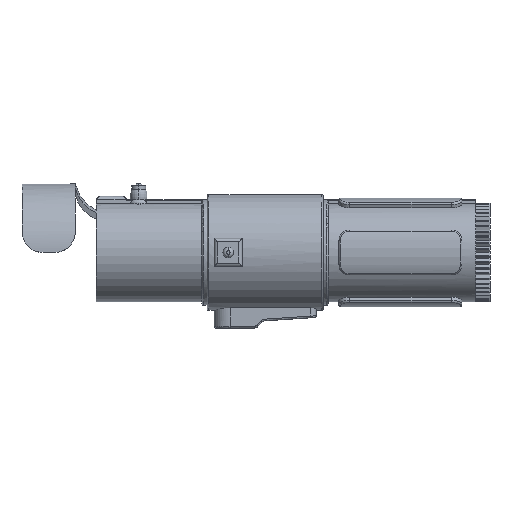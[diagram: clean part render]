
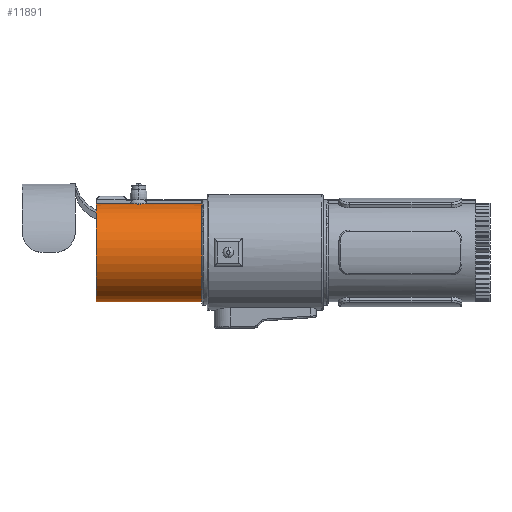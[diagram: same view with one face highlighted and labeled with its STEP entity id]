
A CAD part, left-side view. The second image highlights one B-rep face of the part: STEP entity #11891.
In plain terms, the highlighted cylindrical face has radius 22.225 mm (diameter 44.45 mm), a partial arc.
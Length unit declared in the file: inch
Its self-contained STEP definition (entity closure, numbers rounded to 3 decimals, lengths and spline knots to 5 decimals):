
#107 = VERTEX_POINT ( 'NONE', #178 ) ;
#163 = CYLINDRICAL_SURFACE ( 'NONE', #981, 0.875 ) ;
#178 = CARTESIAN_POINT ( 'NONE',  ( -0.1875, 6.25, 0.85467 ) ) ;
#245 = EDGE_CURVE ( 'NONE', #4231, #6913, #2711, .T. ) ;
#418 = CARTESIAN_POINT ( 'NONE',  ( -0.14351, 6.12862, 0.86319 ) ) ;
#435 = CARTESIAN_POINT ( 'NONE',  ( -0.125, -2.26946, 0.86603 ) ) ;
#752 = AXIS2_PLACEMENT_3D ( 'NONE', #15263, #8434, #9824 ) ;
#981 = AXIS2_PLACEMENT_3D ( 'NONE', #15972, #14753, #5124 ) ;
#1122 = CARTESIAN_POINT ( 'NONE',  ( -0.18061, 6.30204, 0.85616 ) ) ;
#1353 = EDGE_CURVE ( 'NONE', #9234, #7397, #16193, .T. ) ;
#1759 = CARTESIAN_POINT ( 'NONE',  ( -0.1861, 6.22359, 0.85499 ) ) ;
#1802 = VECTOR ( 'NONE', #7156, 39.37008 ) ;
#2711 = LINE ( 'NONE', #4590, #9384 ) ;
#2897 = ORIENTED_EDGE ( 'NONE', *, *, #12521, .T. ) ;
#3138 = CARTESIAN_POINT ( 'NONE',  ( -0.1875, 6.2367, 0.85467 ) ) ;
#3564 = ORIENTED_EDGE ( 'NONE', *, *, #245, .T. ) ;
#4231 = VERTEX_POINT ( 'NONE', #8734 ) ;
#4454 = FACE_OUTER_BOUND ( 'NONE', #4888, .T. ) ;
#4590 = CARTESIAN_POINT ( 'NONE',  ( -0.125, 6.46875, 0.86603 ) ) ;
#4721 = EDGE_CURVE ( 'NONE', #9234, #6913, #11326, .T. ) ;
#4888 = EDGE_LOOP ( 'NONE', ( #12121, #9268, #9356, #11412, #14975, #2897, #3564 ) ) ;
#5124 = DIRECTION ( 'NONE',  ( 0., 0., -1. ) ) ;
#5157 = CARTESIAN_POINT ( 'NONE',  ( -0.1861, 6.27638, 0.85499 ) ) ;
#5321 = VERTEX_POINT ( 'NONE', #5962 ) ;
#5405 = EDGE_CURVE ( 'NONE', #6033, #107, #11547, .T. ) ;
#5861 = VECTOR ( 'NONE', #13161, 39.37008 ) ;
#5962 = CARTESIAN_POINT ( 'NONE',  ( -0.125, 5.125, 0.86603 ) ) ;
#6033 = VERTEX_POINT ( 'NONE', #6414 ) ;
#6077 = CARTESIAN_POINT ( 'NONE',  ( -0.17136, 6.17306, 0.85807 ) ) ;
#6414 = CARTESIAN_POINT ( 'NONE',  ( -0.125, 6.11025, 0.86603 ) ) ;
#6491 = CARTESIAN_POINT ( 'NONE',  ( -0.1875, 6.25, 0.85467 ) ) ;
#6670 = DIRECTION ( 'NONE',  ( 0., 1., 0. ) ) ;
#6709 = CARTESIAN_POINT ( 'NONE',  ( -0.125, 7., 0.86603 ) ) ;
#6913 = VERTEX_POINT ( 'NONE', #6709 ) ;
#7092 = CARTESIAN_POINT ( 'NONE',  ( 0., 7., -0.875 ) ) ;
#7156 = DIRECTION ( 'NONE',  ( 0., -1., 0. ) ) ;
#7220 = CARTESIAN_POINT ( 'NONE',  ( -0.125, 6.11025, 0.86603 ) ) ;
#7397 = VERTEX_POINT ( 'NONE', #10167 ) ;
#7406 = CARTESIAN_POINT ( 'NONE',  ( -0.1588, 6.1501, 0.86048 ) ) ;
#7866 = CARTESIAN_POINT ( 'NONE',  ( -0.1433, 6.3711, 0.8632 ) ) ;
#7930 = CARTESIAN_POINT ( 'NONE',  ( -0.17645, 6.31476, 0.85704 ) ) ;
#8434 = DIRECTION ( 'NONE',  ( 0., 1., 0. ) ) ;
#8594 = CARTESIAN_POINT ( 'NONE',  ( -0.18194, 6.2042, 0.85588 ) ) ;
#8734 = CARTESIAN_POINT ( 'NONE',  ( -0.125, 6.38975, 0.86603 ) ) ;
#8942 = EDGE_CURVE ( 'NONE', #5321, #6033, #16182, .T. ) ;
#9168 = CARTESIAN_POINT ( 'NONE',  ( -0.1345, 6.38081, 0.86461 ) ) ;
#9234 = VERTEX_POINT ( 'NONE', #16447 ) ;
#9268 = ORIENTED_EDGE ( 'NONE', *, *, #1353, .T. ) ;
#9276 = CARTESIAN_POINT ( 'NONE',  ( -0.1875, 6.26331, 0.85467 ) ) ;
#9356 = ORIENTED_EDGE ( 'NONE', *, *, #9949, .T. ) ;
#9384 = VECTOR ( 'NONE', #15754, 39.37008 ) ;
#9824 = DIRECTION ( 'NONE',  ( 0., 0., 1. ) ) ;
#9949 = EDGE_CURVE ( 'NONE', #7397, #5321, #16142, .T. ) ;
#10167 = CARTESIAN_POINT ( 'NONE',  ( 0., 5.125, -0.875 ) ) ;
#10611 = CARTESIAN_POINT ( 'NONE',  ( -0.15915, 6.35001, 0.86044 ) ) ;
#10748 = DIRECTION ( 'NONE',  ( 0., 0., 1. ) ) ;
#11326 = CIRCLE ( 'NONE', #752, 0.875 ) ;
#11412 = ORIENTED_EDGE ( 'NONE', *, *, #8942, .T. ) ;
#11547 = B_SPLINE_CURVE_WITH_KNOTS ( 'NONE', 3,
 ( #7220, #14283, #418, #16792, #7406, #14038, #6077, #16969, #15669, #8594, #1759, #3138, #12716 ),
 .UNSPECIFIED., .F., .F.,
 ( 4, 2, 2, 1, 2, 2, 4 ),
 ( 0.02587, 0.02687, 0.02736, 0.02786, 0.02836, 0.02886, 0.02986 ),
 .UNSPECIFIED. ) ;
#11891 = ADVANCED_FACE ( 'NONE', ( #4454 ), #163, .T. ) ;
#12121 = ORIENTED_EDGE ( 'NONE', *, *, #4721, .F. ) ;
#12503 = B_SPLINE_CURVE_WITH_KNOTS ( 'NONE', 3,
 ( #6491, #9276, #5157, #1122, #7930, #17312, #10611, #16069, #7866, #9168, #13311, #17427 ),
 .UNSPECIFIED., .F., .F.,
 ( 4, 2, 2, 2, 2, 4 ),
 ( 0., 0.001, 0.002, 0.003, 0.0035, 0.004 ),
 .UNSPECIFIED. ) ;
#12521 = EDGE_CURVE ( 'NONE', #107, #4231, #12503, .T. ) ;
#12716 = CARTESIAN_POINT ( 'NONE',  ( -0.1875, 6.25, 0.85467 ) ) ;
#13161 = DIRECTION ( 'NONE',  ( 0., 1., 0. ) ) ;
#13311 = CARTESIAN_POINT ( 'NONE',  ( -0.12986, 6.38541, 0.86532 ) ) ;
#14038 = CARTESIAN_POINT ( 'NONE',  ( -0.16539, 6.16143, 0.85923 ) ) ;
#14283 = CARTESIAN_POINT ( 'NONE',  ( -0.13474, 6.11896, 0.86462 ) ) ;
#14753 = DIRECTION ( 'NONE',  ( 0., -1., 0. ) ) ;
#14975 = ORIENTED_EDGE ( 'NONE', *, *, #5405, .T. ) ;
#15041 = AXIS2_PLACEMENT_3D ( 'NONE', #16328, #6670, #10748 ) ;
#15263 = CARTESIAN_POINT ( 'NONE',  ( 0., 7., 0. ) ) ;
#15669 = CARTESIAN_POINT ( 'NONE',  ( -0.1802, 6.19777, 0.85625 ) ) ;
#15754 = DIRECTION ( 'NONE',  ( 0., 1., 0. ) ) ;
#15972 = CARTESIAN_POINT ( 'NONE',  ( 0., 7., 0. ) ) ;
#16069 = CARTESIAN_POINT ( 'NONE',  ( -0.14749, 6.36596, 0.86249 ) ) ;
#16142 = CIRCLE ( 'NONE', #15041, 0.875 ) ;
#16182 = LINE ( 'NONE', #435, #5861 ) ;
#16193 = LINE ( 'NONE', #7092, #1802 ) ;
#16328 = CARTESIAN_POINT ( 'NONE',  ( 0., 5.125, 0. ) ) ;
#16447 = CARTESIAN_POINT ( 'NONE',  ( 0., 7., -0.875 ) ) ;
#16792 = CARTESIAN_POINT ( 'NONE',  ( -0.15517, 6.14455, 0.86114 ) ) ;
#16969 = CARTESIAN_POINT ( 'NONE',  ( -0.17609, 6.18526, 0.8571 ) ) ;
#17312 = CARTESIAN_POINT ( 'NONE',  ( -0.16571, 6.3387, 0.85918 ) ) ;
#17427 = CARTESIAN_POINT ( 'NONE',  ( -0.125, 6.38975, 0.86603 ) ) ;
